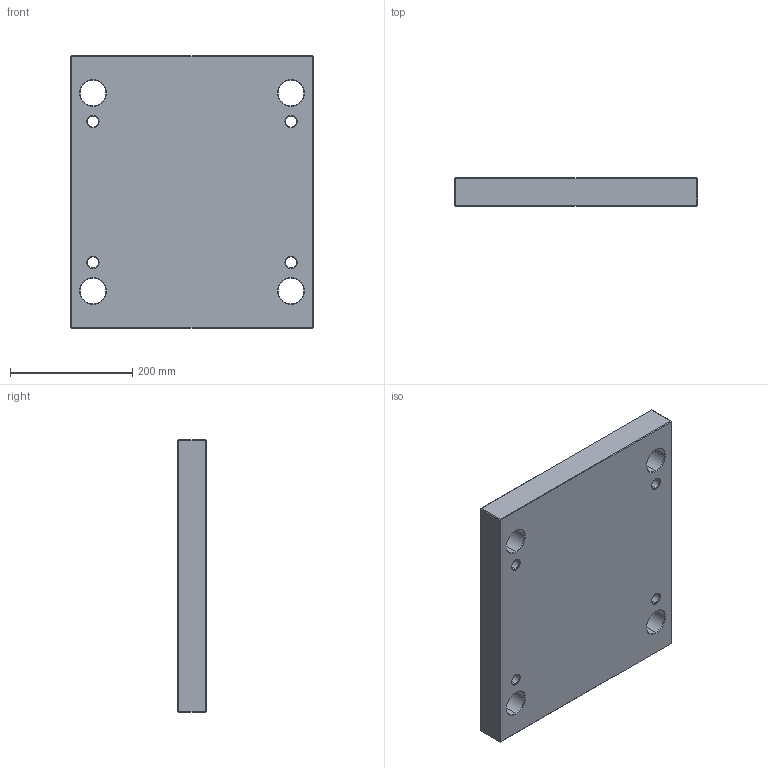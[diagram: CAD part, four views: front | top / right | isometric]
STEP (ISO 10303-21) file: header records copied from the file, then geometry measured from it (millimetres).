
FILE_DESCRIPTION (( 'STEP AP214' ), '1' );
FILE_NAME ('PBAV-EU-396x396x46.STEP', '2020-03-17T19:23:52', ( 'August' ), ( '' ), 'SwSTEP 2.0', 'SolidWorks 2018', '' );
FILE_SCHEMA (( 'AUTOMOTIVE_DESIGN' ));
Length unit declared in the file: millimetre
Products named in the file (1): PBAV-EU-396x396x46
Bounding box: 396 x 46 x 446 mm (x, y, z)
Volume: 7800095.5 mm3; surface area: 451064.3 mm2
Topology: 1 solids, 1 shells, 86 faces, 184 edges, 104 vertices
Faces by surface type: cone 32, plane 30, cylinder 24
Entity records: 2346 total; most frequent: DIRECTION 438, CARTESIAN_POINT 375, ORIENTED_EDGE 368, EDGE_CURVE 184, AXIS2_PLACEMENT_3D 167, EDGE_LOOP 106, LINE 104, VERTEX_POINT 104
